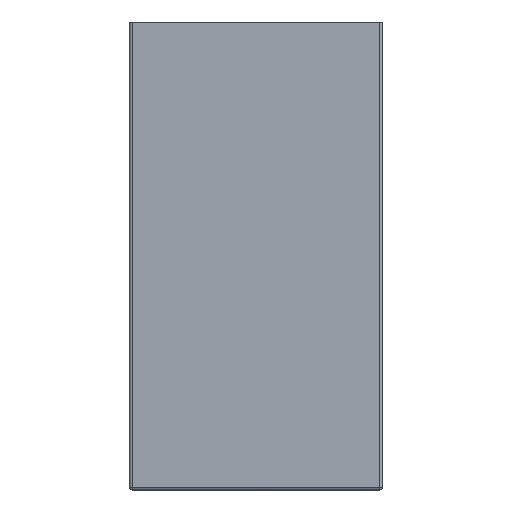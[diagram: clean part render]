
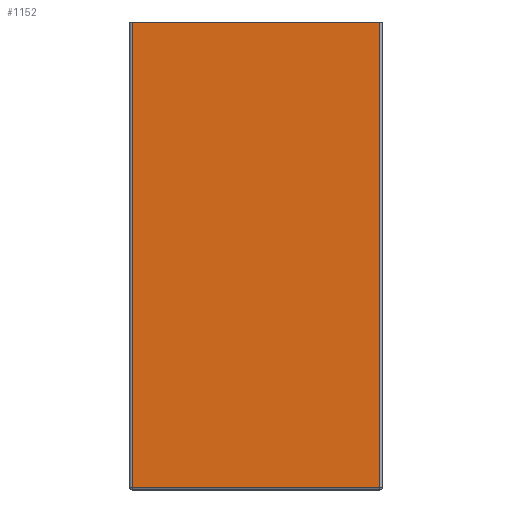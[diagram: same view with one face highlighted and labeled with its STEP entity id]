
A CAD part, left-side view. The second image highlights one B-rep face of the part: STEP entity #1152.
In plain terms, the highlighted planar face has unit normal (-1, 0, 0).
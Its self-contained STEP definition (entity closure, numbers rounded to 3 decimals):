
#1125=AXIS2_PLACEMENT_3D('Plane Axis2P3D',#1122,#1123,#1124) ;
#1025=CARTESIAN_POINT('Line Origine',(-1000.,-2.,185.)) ;
#1029=CARTESIAN_POINT('Vertex',(-1000.,-2.,2.)) ;
#1031=CARTESIAN_POINT('Vertex',(-1000.,-2.,370.)) ;
#1122=CARTESIAN_POINT('Axis2P3D Location',(-1000.,0.,0.)) ;
#1127=CARTESIAN_POINT('Line Origine',(-1000.,-100.,2.)) ;
#1131=CARTESIAN_POINT('Vertex',(-1000.,-198.,2.)) ;
#1134=CARTESIAN_POINT('Line Origine',(-1000.,-198.,186.)) ;
#1138=CARTESIAN_POINT('Vertex',(-1000.,-198.,370.)) ;
#1141=CARTESIAN_POINT('Line Origine',(-1000.,-100.,370.)) ;
#1026=DIRECTION('Vector Direction',(0.,0.,1.)) ;
#1123=DIRECTION('Axis2P3D Direction',(1.,0.,-0.)) ;
#1124=DIRECTION('Axis2P3D XDirection',(0.,0.,1.)) ;
#1128=DIRECTION('Vector Direction',(0.,1.,0.)) ;
#1135=DIRECTION('Vector Direction',(0.,0.,1.)) ;
#1142=DIRECTION('Vector Direction',(0.,-1.,0.)) ;
#1027=VECTOR('Line Direction',#1026,1.) ;
#1129=VECTOR('Line Direction',#1128,1.) ;
#1136=VECTOR('Line Direction',#1135,1.) ;
#1143=VECTOR('Line Direction',#1142,1.) ;
#1147=ORIENTED_EDGE('',*,*,#1133,.T.) ;
#1148=ORIENTED_EDGE('',*,*,#1140,.T.) ;
#1149=ORIENTED_EDGE('',*,*,#1145,.F.) ;
#1150=ORIENTED_EDGE('',*,*,#1033,.F.) ;
#1152=ADVANCED_FACE('STRUTTURA',(#1151),#1126,.F.) ;
#1033=EDGE_CURVE('',#1030,#1032,#1028,.T.) ;
#1133=EDGE_CURVE('',#1030,#1132,#1130,.F.) ;
#1140=EDGE_CURVE('',#1132,#1139,#1137,.T.) ;
#1145=EDGE_CURVE('',#1032,#1139,#1144,.T.) ;
#1146=EDGE_LOOP('',(#1147,#1148,#1149,#1150)) ;
#1151=FACE_OUTER_BOUND('',#1146,.T.) ;
#1028=LINE('Line',#1025,#1027) ;
#1130=LINE('Line',#1127,#1129) ;
#1137=LINE('Line',#1134,#1136) ;
#1144=LINE('Line',#1141,#1143) ;
#1126=PLANE('Plane',#1125) ;
#1030=VERTEX_POINT('',#1029) ;
#1032=VERTEX_POINT('',#1031) ;
#1132=VERTEX_POINT('',#1131) ;
#1139=VERTEX_POINT('',#1138) ;
